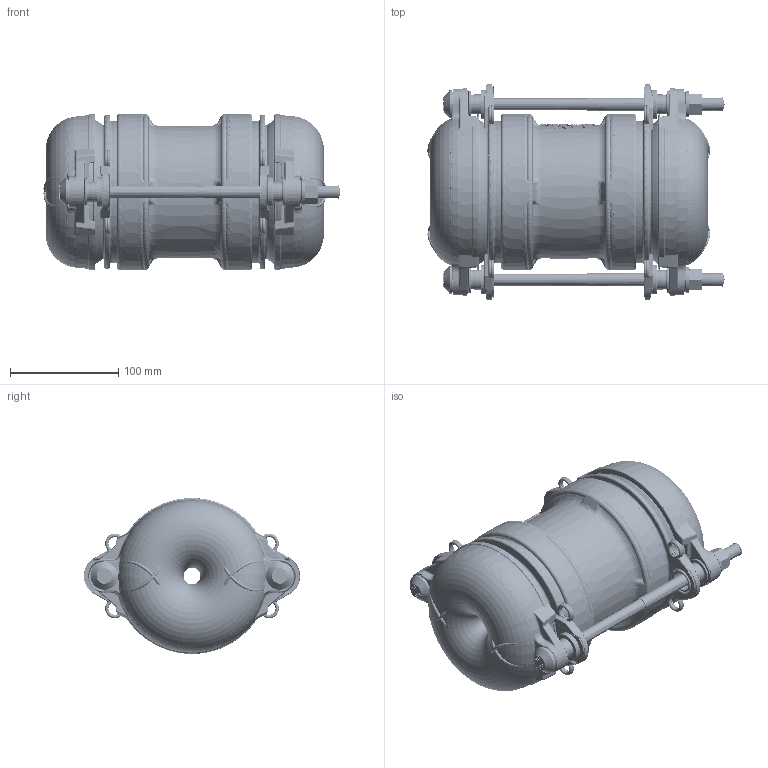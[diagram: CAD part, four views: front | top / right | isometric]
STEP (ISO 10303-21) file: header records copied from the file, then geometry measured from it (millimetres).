
FILE_DESCRIPTION((''),'2;1');
FILE_NAME('13382_4','2014-12-09T',('rburgess'),('Viking Johnson'),'PRO/ENGINEER BY PARAMETRIC TECHNOLOGY CORPORATION, 2006020','PRO/ENGINEER BY PARAMETRIC TECHNOLOGY CORPORATION, 2006020','');
FILE_SCHEMA(('CONFIG_CONTROL_DESIGN'));
Products named in the file (1): 13382_4
Bounding box: 274.35 x 200 x 144 mm (x, y, z)
Surface area: 1041542.9 mm2 (no closed solid volume)
Topology: 0 solids, 0 shells, 4588 faces, 24414 edges, 24066 vertices
Faces by surface type: bspline 4080, torus 448, sphere 60
Entity records: 346449 total; most frequent: CARTESIAN_POINT 137383, DIRECTION 31693, TRIMMED_CURVE 28384, VECTOR 26091, LINE 26091, DEFINITIONAL_REPRESENTATION 23690, PCURVE 23690, COMPOSITE_CURVE_SEGMENT 23690
